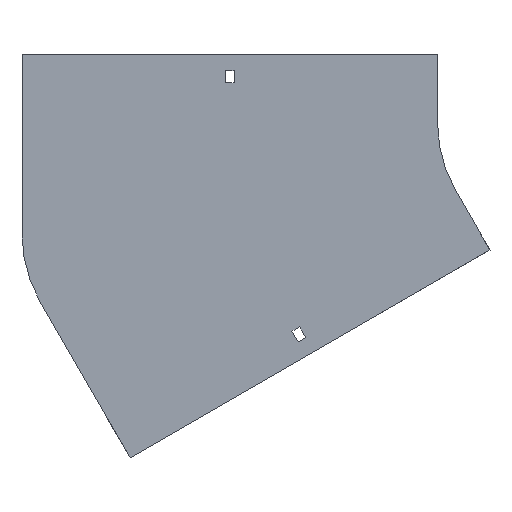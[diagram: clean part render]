
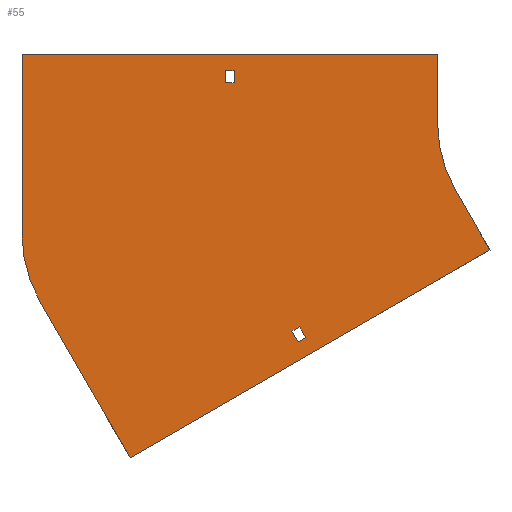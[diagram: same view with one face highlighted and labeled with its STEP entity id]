
A CAD part, front view. The second image highlights one B-rep face of the part: STEP entity #55.
In plain terms, the highlighted planar face has unit normal (0, -1, 0).
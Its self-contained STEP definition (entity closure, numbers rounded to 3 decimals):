
#10 = CARTESIAN_POINT ( 'NONE',  ( -390.603, 0., -131.457 ) ) ;
#15 = CARTESIAN_POINT ( 'NONE',  ( -304., 0., -81.457 ) ) ;
#21 = CARTESIAN_POINT ( 'NONE',  ( -206.553, 0., -152.74 ) ) ;
#27 = DIRECTION ( 'NONE',  ( 0., -1., 0. ) ) ;
#28 = DIRECTION ( 'NONE',  ( -0.5, 0., 0.866 ) ) ;
#54 = CARTESIAN_POINT ( 'NONE',  ( -404., 0., 50. ) ) ;
#55 = ADVANCED_FACE ( 'NONE', ( #560, #450, #673 ), #131, .T. ) ;
#64 = VECTOR ( 'NONE', #501, 1000. ) ;
#76 = VERTEX_POINT ( 'NONE', #54 ) ;
#87 = LINE ( 'NONE', #652, #151 ) ;
#90 = EDGE_LOOP ( 'NONE', ( #679, #408, #316, #785 ) ) ;
#94 = DIRECTION ( 'NONE',  ( -0.866, 0., -0.5 ) ) ;
#95 = DIRECTION ( 'NONE',  ( 0., -1., 0. ) ) ;
#123 = CARTESIAN_POINT ( 'NONE',  ( -248.75, 0., 29. ) ) ;
#124 = LINE ( 'NONE', #561, #592 ) ;
#131 = PLANE ( 'NONE',  #598 ) ;
#133 = EDGE_CURVE ( 'NONE', #1236, #76, #701, .T. ) ;
#139 = LINE ( 'NONE', #1332, #776 ) ;
#151 = VECTOR ( 'NONE', #94, 1000. ) ;
#200 = LINE ( 'NONE', #965, #244 ) ;
#217 = LINE ( 'NONE', #524, #64 ) ;
#237 = DIRECTION ( 'NONE',  ( 0., 0., 1. ) ) ;
#239 = VECTOR ( 'NONE', #1175, 1000. ) ;
#244 = VECTOR ( 'NONE', #1176, 1000. ) ;
#246 = VERTEX_POINT ( 'NONE', #485 ) ;
#264 = CARTESIAN_POINT ( 'NONE',  ( -404., 0., -81.457 ) ) ;
#267 = VERTEX_POINT ( 'NONE', #1290 ) ;
#300 = ORIENTED_EDGE ( 'NONE', *, *, #886, .F. ) ;
#316 = ORIENTED_EDGE ( 'NONE', *, *, #1036, .T. ) ;
#317 = EDGE_CURVE ( 'NONE', #1099, #612, #1256, .T. ) ;
#321 = LINE ( 'NONE', #674, #1383 ) ;
#326 = DIRECTION ( 'NONE',  ( 0.866, 0., 0.5 ) ) ;
#332 = CARTESIAN_POINT ( 'NONE',  ( -196.424, 0., -157.284 ) ) ;
#347 = CARTESIAN_POINT ( 'NONE',  ( -206.553, 0., -152.74 ) ) ;
#357 = CARTESIAN_POINT ( 'NONE',  ( -324.874, 0., -245.301 ) ) ;
#372 = VERTEX_POINT ( 'NONE', #945 ) ;
#386 = VERTEX_POINT ( 'NONE', #1263 ) ;
#408 = ORIENTED_EDGE ( 'NONE', *, *, #632, .T. ) ;
#414 = CARTESIAN_POINT ( 'NONE',  ( -255.25, 0., 29. ) ) ;
#420 = VERTEX_POINT ( 'NONE', #123 ) ;
#435 = VECTOR ( 'NONE', #1391, 1000. ) ;
#437 = VECTOR ( 'NONE', #1042, 1000. ) ;
#450 = FACE_OUTER_BOUND ( 'NONE', #1350, .T. ) ;
#463 = DIRECTION ( 'NONE',  ( 0., 0., -1. ) ) ;
#478 = EDGE_CURVE ( 'NONE', #905, #246, #657, .T. ) ;
#485 = CARTESIAN_POINT ( 'NONE',  ( -202.053, 0., -160.534 ) ) ;
#488 = VERTEX_POINT ( 'NONE', #10 ) ;
#501 = DIRECTION ( 'NONE',  ( 0., 0., -1. ) ) ;
#512 = VECTOR ( 'NONE', #593, 1000. ) ;
#517 = VERTEX_POINT ( 'NONE', #618 ) ;
#524 = CARTESIAN_POINT ( 'NONE',  ( -100., 0., 50. ) ) ;
#525 = EDGE_CURVE ( 'NONE', #386, #700, #830, .T. ) ;
#560 = FACE_BOUND ( 'NONE', #90, .T. ) ;
#561 = CARTESIAN_POINT ( 'NONE',  ( -61.603, 0., -93.301 ) ) ;
#572 = CARTESIAN_POINT ( 'NONE',  ( 0., 0., 0. ) ) ;
#589 = ORIENTED_EDGE ( 'NONE', *, *, #671, .F. ) ;
#592 = VECTOR ( 'NONE', #856, 1000. ) ;
#593 = DIRECTION ( 'NONE',  ( 0., 0., 1. ) ) ;
#598 = AXIS2_PLACEMENT_3D ( 'NONE', #572, #27, #463 ) ;
#612 = VERTEX_POINT ( 'NONE', #741 ) ;
#618 = CARTESIAN_POINT ( 'NONE',  ( -200.924, 0., -149.49 ) ) ;
#632 = EDGE_CURVE ( 'NONE', #612, #1021, #200, .T. ) ;
#648 = CARTESIAN_POINT ( 'NONE',  ( -248.75, 0., 29. ) ) ;
#652 = CARTESIAN_POINT ( 'NONE',  ( -206.553, 0., -152.74 ) ) ;
#657 = LINE ( 'NONE', #21, #1139 ) ;
#667 = DIRECTION ( 'NONE',  ( -0.5, 0., 0.866 ) ) ;
#671 = EDGE_CURVE ( 'NONE', #517, #905, #87, .T. ) ;
#673 = FACE_BOUND ( 'NONE', #691, .T. ) ;
#674 = CARTESIAN_POINT ( 'NONE',  ( -200.924, 0., -149.49 ) ) ;
#679 = ORIENTED_EDGE ( 'NONE', *, *, #317, .T. ) ;
#690 = VERTEX_POINT ( 'NONE', #332 ) ;
#691 = EDGE_LOOP ( 'NONE', ( #806, #939, #589, #1306 ) ) ;
#692 = EDGE_CURVE ( 'NONE', #420, #1099, #1387, .T. ) ;
#700 = VERTEX_POINT ( 'NONE', #761 ) ;
#701 = LINE ( 'NONE', #264, #512 ) ;
#723 = CARTESIAN_POINT ( 'NONE',  ( -255.25, 0., 29. ) ) ;
#725 = CARTESIAN_POINT ( 'NONE',  ( -86.603, 0., -50. ) ) ;
#732 = CARTESIAN_POINT ( 'NONE',  ( -255.25, 0., 29. ) ) ;
#741 = CARTESIAN_POINT ( 'NONE',  ( -255.25, 0., 38. ) ) ;
#749 = ORIENTED_EDGE ( 'NONE', *, *, #133, .F. ) ;
#761 = CARTESIAN_POINT ( 'NONE',  ( -86.603, 0., -50. ) ) ;
#772 = CARTESIAN_POINT ( 'NONE',  ( -202.053, 0., -160.534 ) ) ;
#776 = VECTOR ( 'NONE', #28, 1000. ) ;
#785 = ORIENTED_EDGE ( 'NONE', *, *, #692, .T. ) ;
#792 = ORIENTED_EDGE ( 'NONE', *, *, #1280, .F. ) ;
#806 = ORIENTED_EDGE ( 'NONE', *, *, #1404, .F. ) ;
#830 = CIRCLE ( 'NONE', #1238, 100. ) ;
#842 = DIRECTION ( 'NONE',  ( -1., 0., 0. ) ) ;
#856 = DIRECTION ( 'NONE',  ( -0.866, 0., -0.5 ) ) ;
#886 = EDGE_CURVE ( 'NONE', #76, #372, #1300, .T. ) ;
#897 = ORIENTED_EDGE ( 'NONE', *, *, #1022, .F. ) ;
#905 = VERTEX_POINT ( 'NONE', #347 ) ;
#910 = CIRCLE ( 'NONE', #1097, 100. ) ;
#932 = EDGE_CURVE ( 'NONE', #488, #1236, #910, .T. ) ;
#939 = ORIENTED_EDGE ( 'NONE', *, *, #478, .F. ) ;
#945 = CARTESIAN_POINT ( 'NONE',  ( -100., 0., 50. ) ) ;
#952 = VERTEX_POINT ( 'NONE', #357 ) ;
#965 = CARTESIAN_POINT ( 'NONE',  ( -255.25, 0., 38. ) ) ;
#969 = ORIENTED_EDGE ( 'NONE', *, *, #1047, .F. ) ;
#997 = DIRECTION ( 'NONE',  ( 0.5, 0., -0.866 ) ) ;
#1017 = VECTOR ( 'NONE', #1083, 1000. ) ;
#1021 = VERTEX_POINT ( 'NONE', #1101 ) ;
#1022 = EDGE_CURVE ( 'NONE', #267, #952, #124, .T. ) ;
#1028 = EDGE_CURVE ( 'NONE', #690, #517, #321, .T. ) ;
#1036 = EDGE_CURVE ( 'NONE', #1021, #420, #1107, .T. ) ;
#1042 = DIRECTION ( 'NONE',  ( 0.5, 0., -0.866 ) ) ;
#1047 = EDGE_CURVE ( 'NONE', #952, #488, #139, .T. ) ;
#1068 = CARTESIAN_POINT ( 'NONE',  ( -404., 0., -81.457 ) ) ;
#1083 = DIRECTION ( 'NONE',  ( 0., 0., -1. ) ) ;
#1086 = DIRECTION ( 'NONE',  ( 0., 0., -1. ) ) ;
#1087 = LINE ( 'NONE', #772, #1182 ) ;
#1097 = AXIS2_PLACEMENT_3D ( 'NONE', #15, #1207, #237 ) ;
#1099 = VERTEX_POINT ( 'NONE', #732 ) ;
#1101 = CARTESIAN_POINT ( 'NONE',  ( -248.75, 0., 38. ) ) ;
#1107 = LINE ( 'NONE', #648, #1017 ) ;
#1139 = VECTOR ( 'NONE', #997, 1000. ) ;
#1154 = EDGE_CURVE ( 'NONE', #700, #267, #1247, .T. ) ;
#1175 = DIRECTION ( 'NONE',  ( 1., 0., 0. ) ) ;
#1176 = DIRECTION ( 'NONE',  ( 1., 0., 0. ) ) ;
#1182 = VECTOR ( 'NONE', #326, 1000. ) ;
#1194 = CARTESIAN_POINT ( 'NONE',  ( 0., 0., 0. ) ) ;
#1207 = DIRECTION ( 'NONE',  ( 0., 1., 0. ) ) ;
#1229 = ORIENTED_EDGE ( 'NONE', *, *, #932, .F. ) ;
#1233 = VECTOR ( 'NONE', #842, 1000. ) ;
#1236 = VERTEX_POINT ( 'NONE', #1068 ) ;
#1238 = AXIS2_PLACEMENT_3D ( 'NONE', #1194, #95, #1086 ) ;
#1247 = LINE ( 'NONE', #725, #437 ) ;
#1256 = LINE ( 'NONE', #723, #435 ) ;
#1263 = CARTESIAN_POINT ( 'NONE',  ( -100., 0., 0. ) ) ;
#1274 = CARTESIAN_POINT ( 'NONE',  ( -404., 0., 50. ) ) ;
#1280 = EDGE_CURVE ( 'NONE', #372, #386, #217, .T. ) ;
#1290 = CARTESIAN_POINT ( 'NONE',  ( -61.603, 0., -93.301 ) ) ;
#1300 = LINE ( 'NONE', #1274, #239 ) ;
#1306 = ORIENTED_EDGE ( 'NONE', *, *, #1028, .F. ) ;
#1332 = CARTESIAN_POINT ( 'NONE',  ( -324.874, 0., -245.301 ) ) ;
#1350 = EDGE_LOOP ( 'NONE', ( #300, #749, #1229, #969, #897, #1390, #1367, #792 ) ) ;
#1367 = ORIENTED_EDGE ( 'NONE', *, *, #525, .F. ) ;
#1383 = VECTOR ( 'NONE', #667, 1000. ) ;
#1387 = LINE ( 'NONE', #414, #1233 ) ;
#1390 = ORIENTED_EDGE ( 'NONE', *, *, #1154, .F. ) ;
#1391 = DIRECTION ( 'NONE',  ( 0., 0., 1. ) ) ;
#1404 = EDGE_CURVE ( 'NONE', #246, #690, #1087, .T. ) ;
